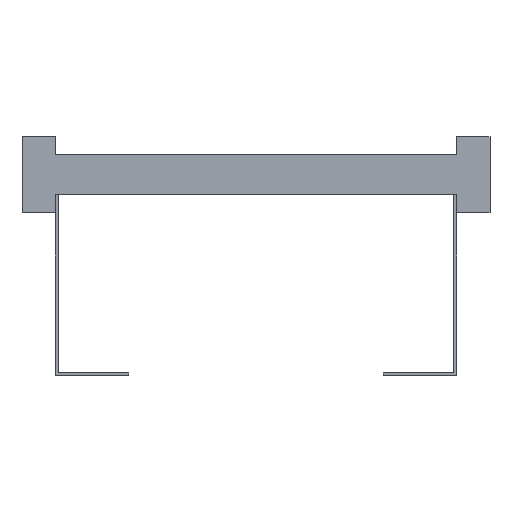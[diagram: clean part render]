
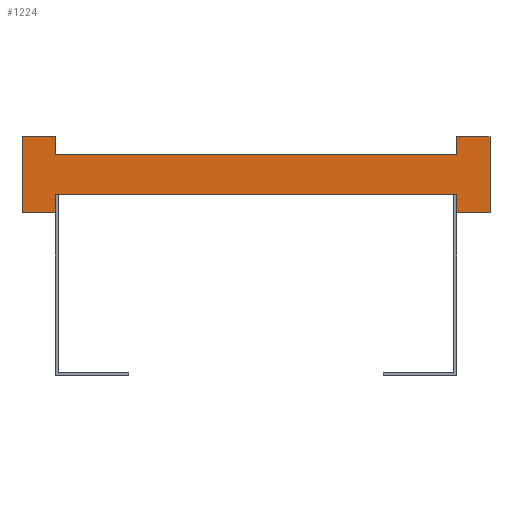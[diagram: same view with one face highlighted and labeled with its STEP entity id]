
A CAD part, front view. The second image highlights one B-rep face of the part: STEP entity #1224.
In plain terms, the highlighted planar face has unit normal (0, -1, 0).
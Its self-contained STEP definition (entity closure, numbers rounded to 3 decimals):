
#113=DIRECTION('',(0.,0.,1.));
#114=VECTOR('',#113,13.5);
#115=CARTESIAN_POINT('',(150.,0.,-28.5));
#116=LINE('',#115,#114);
#117=DIRECTION('',(0.,0.,-1.));
#118=VECTOR('',#117,13.5);
#119=CARTESIAN_POINT('',(-150.,0.,-15.));
#120=LINE('',#119,#118);
#121=DIRECTION('',(-1.,0.,0.));
#122=VECTOR('',#121,25.);
#123=CARTESIAN_POINT('',(-150.,0.,-28.5));
#124=LINE('',#123,#122);
#125=DIRECTION('',(0.,0.,1.));
#126=VECTOR('',#125,57.);
#127=CARTESIAN_POINT('',(-175.,0.,-28.5));
#128=LINE('',#127,#126);
#129=DIRECTION('',(1.,0.,0.));
#130=VECTOR('',#129,25.);
#131=CARTESIAN_POINT('',(-175.,0.,28.5));
#132=LINE('',#131,#130);
#133=DIRECTION('',(0.,0.,-1.));
#134=VECTOR('',#133,13.5);
#135=CARTESIAN_POINT('',(-150.,0.,28.5));
#136=LINE('',#135,#134);
#137=DIRECTION('',(0.,0.,1.));
#138=VECTOR('',#137,13.5);
#139=CARTESIAN_POINT('',(150.,0.,15.));
#140=LINE('',#139,#138);
#141=DIRECTION('',(1.,0.,0.));
#142=VECTOR('',#141,25.);
#143=CARTESIAN_POINT('',(150.,0.,28.5));
#144=LINE('',#143,#142);
#145=DIRECTION('',(0.,0.,-1.));
#146=VECTOR('',#145,57.);
#147=CARTESIAN_POINT('',(175.,0.,28.5));
#148=LINE('',#147,#146);
#149=DIRECTION('',(-1.,0.,0.));
#150=VECTOR('',#149,25.);
#151=CARTESIAN_POINT('',(175.,0.,-28.5));
#152=LINE('',#151,#150);
#913=DIRECTION('',(1.,0.,0.));
#914=VECTOR('',#913,300.);
#915=CARTESIAN_POINT('',(-150.,0.,-15.));
#916=LINE('',#915,#914);
#925=DIRECTION('',(1.,0.,0.));
#926=VECTOR('',#925,300.);
#927=CARTESIAN_POINT('',(-150.,0.,15.));
#928=LINE('',#927,#926);
#929=CARTESIAN_POINT('',(-175.,0.,28.5));
#930=CARTESIAN_POINT('',(-150.,0.,28.5));
#931=VERTEX_POINT('',#929);
#932=VERTEX_POINT('',#930);
#933=CARTESIAN_POINT('',(-150.,0.,-28.5));
#934=CARTESIAN_POINT('',(-175.,0.,-28.5));
#935=VERTEX_POINT('',#933);
#936=VERTEX_POINT('',#934);
#937=CARTESIAN_POINT('',(175.,0.,28.5));
#938=CARTESIAN_POINT('',(175.,0.,-28.5));
#939=VERTEX_POINT('',#937);
#940=VERTEX_POINT('',#938);
#941=CARTESIAN_POINT('',(150.,0.,-28.5));
#942=VERTEX_POINT('',#941);
#943=CARTESIAN_POINT('',(150.,0.,28.5));
#944=VERTEX_POINT('',#943);
#961=CARTESIAN_POINT('',(-150.,0.,-15.));
#963=VERTEX_POINT('',#961);
#965=CARTESIAN_POINT('',(-150.,0.,15.));
#967=VERTEX_POINT('',#965);
#969=CARTESIAN_POINT('',(150.,0.,-15.));
#971=VERTEX_POINT('',#969);
#973=CARTESIAN_POINT('',(150.,0.,15.));
#975=VERTEX_POINT('',#973);
#1193=CARTESIAN_POINT('',(0.,0.,0.));
#1194=DIRECTION('',(0.,1.,0.));
#1195=DIRECTION('',(1.,0.,0.));
#1196=AXIS2_PLACEMENT_3D('',#1193,#1194,#1195);
#1197=PLANE('',#1196);
#1199=ORIENTED_EDGE('',*,*,#1198,.T.);
#1201=ORIENTED_EDGE('',*,*,#1200,.F.);
#1203=ORIENTED_EDGE('',*,*,#1202,.T.);
#1205=ORIENTED_EDGE('',*,*,#1204,.T.);
#1207=ORIENTED_EDGE('',*,*,#1206,.T.);
#1209=ORIENTED_EDGE('',*,*,#1208,.T.);
#1211=ORIENTED_EDGE('',*,*,#1210,.T.);
#1213=ORIENTED_EDGE('',*,*,#1212,.T.);
#1215=ORIENTED_EDGE('',*,*,#1214,.T.);
#1217=ORIENTED_EDGE('',*,*,#1216,.T.);
#1219=ORIENTED_EDGE('',*,*,#1218,.T.);
#1221=ORIENTED_EDGE('',*,*,#1220,.T.);
#1222=EDGE_LOOP('',(#1199,#1201,#1203,#1205,#1207,#1209,#1211,#1213,#1215,#1217,
#1219,#1221));
#1223=FACE_OUTER_BOUND('',#1222,.F.);
#1198=EDGE_CURVE('',#942,#971,#116,.T.);
#1200=EDGE_CURVE('',#963,#971,#916,.T.);
#1202=EDGE_CURVE('',#963,#935,#120,.T.);
#1204=EDGE_CURVE('',#935,#936,#124,.T.);
#1206=EDGE_CURVE('',#936,#931,#128,.T.);
#1208=EDGE_CURVE('',#931,#932,#132,.T.);
#1210=EDGE_CURVE('',#932,#967,#136,.T.);
#1212=EDGE_CURVE('',#967,#975,#928,.T.);
#1214=EDGE_CURVE('',#975,#944,#140,.T.);
#1216=EDGE_CURVE('',#944,#939,#144,.T.);
#1218=EDGE_CURVE('',#939,#940,#148,.T.);
#1220=EDGE_CURVE('',#940,#942,#152,.T.);
#1224=ADVANCED_FACE('',(#1223),#1197,.F.);
